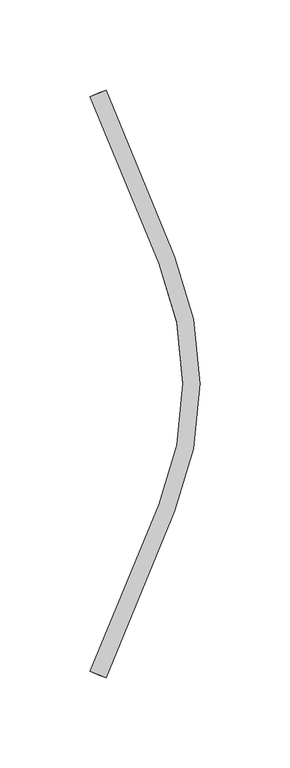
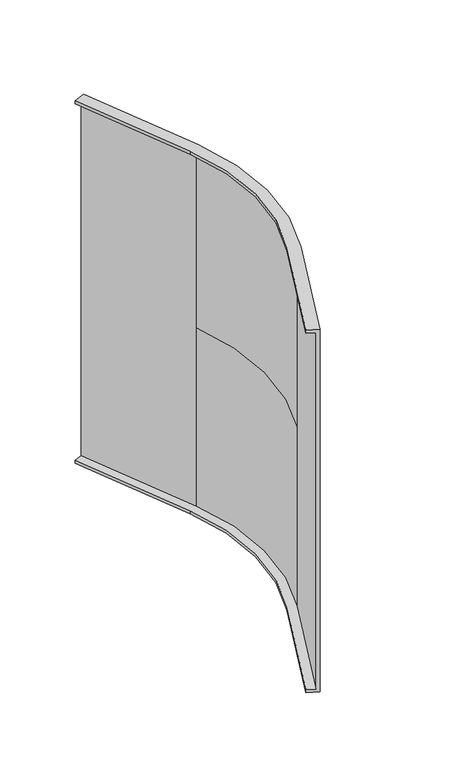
"""IFC4 building model written with IfcOpenShell, lengths in millimetres: cable carrier fitting geometry, CCT_Hyperline_FBTR-ERS45-CVR Крышка на угол 45° внешний (вниз) для оптического лотка : Крышка на угол 45° внешний (вниз) для оптического лотка."""

from ifc_helpers import new_model, si_unit, frame, origin, place, context, project, spatial, polyline, circle_curve, source, transform, mapped, element, save
from ifc_brep_helpers import plane_surface, cylinder_surface, revolved_surface, advanced_brep


def cable_carrier_fitting_f0c8af3d(model_context):
    return source(origin(), model_context, "Body", "AdvancedBrep", [
        advanced_brep(
        [(106.4671567, 150.6353776, 150.0), (100.0, 147.9565936, 150.0), (100.0, 147.9565936, 152.54), (108.8138107, 151.6073935, 152.54), (108.8138107, 151.6073935, -152.54), (100.0, 147.9565936, -152.54), (100.0, 147.9565936, -150.0), (106.4671567, 150.6353776, -150.0), (138.2683432, 55.5686403, -150.0), (138.2683432, -78.370561, -150.0), (100.0, -170.7585143, -150.0), (106.4671567, -173.4372983, -150.0), (144.7355, -81.049345, -150.0), (144.7355, 58.2474243, -150.0), (138.2683432, 55.5686403, -152.54), (147.082154, 59.2194402, -152.54), (147.082154, -82.021361, -152.54), (108.8138107, -174.4093142, -152.54), (100.0, -170.7585143, -152.54), (138.2683432, -78.370561, -152.54), (147.082154, 59.2194402, 152.54), (147.082154, 59.2194402, 0.0), (144.7355, 58.2474243, 0.0), (144.7355, 58.2474243, 150.0), (147.082154, -82.021361, 0.0), (144.7355, -81.049345, 0.0), (108.8138107, -174.4093142, 152.54), (100.0, -170.7585143, 152.54), (100.0, -170.7585143, 150.0), (106.4671567, -173.4372983, 150.0), (147.082154, -82.021361, 152.54), (144.7355, -81.049345, 150.0), (138.2683432, -78.370561, 150.0), (138.2683432, 55.5686403, 150.0), (138.2683432, 55.5686403, 152.54), (138.2683432, -78.370561, 152.54)],
        [
            (0, 1),
            (1, 2),
            (2, 3),
            (3, 4),
            (4, 5),
            (5, 6),
            (6, 7),
            (7, 0),
            (6, 8),
            (8, 9, circle_curve(frame((-23.410575, -11.4009604, -150.0), z_axis=(0.0, 0.0, -1.0), x_axis=(0.9238795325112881, 0.38268343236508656, 0.0)), 175.0)),
            (9, 10),
            (10, 11),
            (11, 12),
            (12, 13, circle_curve(frame((-23.410575, -11.4009604, -150.0), z_axis=(0.0, 0.0, 1.0), x_axis=(0.9238795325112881, 0.38268343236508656, 0.0)), 182.0)),
            (13, 7),
            (5, 14),
            (14, 8),
            (4, 15),
            (15, 16, circle_curve(frame((-23.410575, -11.4009604, -152.54), z_axis=(0.0, 0.0, -1.0), x_axis=(0.9238795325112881, 0.38268343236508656, 0.0)), 184.54)),
            (16, 17),
            (17, 18),
            (18, 19),
            (19, 14, circle_curve(frame((-23.410575, -11.4009604, -152.54), z_axis=(0.0, 0.0, 1.0), x_axis=(0.9238795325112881, 0.38268343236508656, 0.0)), 175.0)),
            (3, 20),
            (20, 21),
            (21, 15),
            (13, 22),
            (22, 23),
            (23, 0),
            (19, 9),
            (21, 24, circle_curve(frame((-23.410575, -11.4009604, 0.0), z_axis=(0.0, 0.0, -1.0), x_axis=(0.9238795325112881, 0.38268343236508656, 0.0)), 184.54)),
            (24, 16),
            (12, 25),
            (25, 22, circle_curve(frame((-23.410575, -11.4009604, 0.0), z_axis=(0.0, 0.0, 1.0), x_axis=(0.9238795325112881, 0.38268343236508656, 0.0)), 182.0)),
            (10, 18),
            (17, 26),
            (26, 27),
            (27, 28),
            (28, 29),
            (29, 11),
            (24, 30),
            (30, 26),
            (29, 31),
            (31, 25),
            (23, 31, circle_curve(frame((-23.410575, -11.4009604, 150.0), z_axis=(0.0, 0.0, -1.0), x_axis=(0.9238795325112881, 0.3826834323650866, 0.0)), 182.0)),
            (28, 32),
            (32, 33, circle_curve(frame((-23.410575, -11.4009604, 150.0), z_axis=(0.0, 0.0, 1.0), x_axis=(0.9238795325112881, 0.3826834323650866, 0.0)), 175.0)),
            (33, 1),
            (33, 34),
            (34, 2),
            (34, 35, circle_curve(frame((-23.410575, -11.4009604, 152.54), z_axis=(0.0, 0.0, -1.0), x_axis=(0.9238795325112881, 0.3826834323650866, 0.0)), 175.0)),
            (35, 27),
            (30, 20, circle_curve(frame((-23.410575, -11.4009604, 152.54), z_axis=(0.0, 0.0, 1.0), x_axis=(0.9238795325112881, 0.3826834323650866, 0.0)), 184.54)),
            (32, 35),
        ],
        [
            plane_surface(frame((104.6193977, 149.8700107, -55.0), z_axis=(-0.38268343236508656, 0.9238795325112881, 0.0), x_axis=(0.0, 0.0, 1.0))),
            plane_surface(frame((100.0, 147.9565936, -150.0), z_axis=(0.0, 0.0, 1.0), x_axis=(0.3826834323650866, -0.9238795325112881, 0.0))),
            plane_surface(frame((100.0, 147.9565936, -152.54), z_axis=(-0.9238795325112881, -0.3826834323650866, 0.0), x_axis=(0.3826834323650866, -0.9238795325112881, 0.0))),
            plane_surface(frame((108.8138107, 151.6073935, -152.54), z_axis=(0.0, 0.0, -1.0000000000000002), x_axis=(0.38268343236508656, -0.9238795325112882, 0.0))),
            plane_surface(frame((108.8138107, 151.6073935, 0.0), z_axis=(0.9238795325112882, 0.38268343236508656, 0.0), x_axis=(0.38268343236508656, -0.9238795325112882, 0.0))),
            plane_surface(frame((106.4671567, 150.6353776, -150.0), z_axis=(-0.9238795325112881, -0.38268343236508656, 0.0), x_axis=(0.38268343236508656, -0.9238795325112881, 0.0))),
            revolved_surface(polyline([(138.26834318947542, 55.568640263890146, -152.54), (138.26834318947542, 55.568640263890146, -150.0)]), (-23.410575, -11.4009604, -55.0), (0.0, 0.0, -1.0)),
            cylinder_surface(frame((-23.410575, -11.4009604, -55.0), z_axis=(0.0, 0.0, -1.0), x_axis=(0.9238795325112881, 0.38268343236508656, 0.0)), 184.54),
            revolved_surface(polyline([(144.73549991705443, 58.24742429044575, -150.0), (144.73549991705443, 58.24742429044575, 0.0)]), (-23.410575, -11.4009604, -55.0), (0.0, 0.0, -1.0)),
            plane_surface(frame((104.6193977, -172.6719314, -55.0), z_axis=(-0.3826834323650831, -0.9238795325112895, 0.0), x_axis=(0.0, 0.0, 1.0))),
            plane_surface(frame((138.2683432, -78.370561, -152.54), z_axis=(-0.9238795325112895, 0.3826834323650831, 0.0), x_axis=(-0.3826834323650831, -0.9238795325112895, 0.0))),
            plane_surface(frame((147.082154, -82.021361, 0.0), z_axis=(0.9238795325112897, -0.3826834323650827, 0.0), x_axis=(-0.3826834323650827, -0.9238795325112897, 0.0))),
            plane_surface(frame((144.7355, -81.049345, -150.0), z_axis=(-0.9238795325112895, 0.3826834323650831, 0.0), x_axis=(-0.3826834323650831, -0.9238795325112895, 0.0))),
            plane_surface(frame((106.4671567, 150.6353776, 150.0), z_axis=(0.0, 0.0, -1.0), x_axis=(0.38268343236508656, -0.9238795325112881, 0.0))),
            plane_surface(frame((100.0, 147.9565936, 150.0), z_axis=(-0.9238795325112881, -0.38268343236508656, 0.0), x_axis=(0.38268343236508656, -0.9238795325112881, 0.0))),
            plane_surface(frame((100.0, 147.9565936, 152.54), z_axis=(0.0, 0.0, 1.0), x_axis=(0.38268343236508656, -0.9238795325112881, 0.0))),
            revolved_surface(polyline([(138.26834318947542, 55.56864026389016, 150.0), (138.26834318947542, 55.56864026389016, 152.54)]), (-23.410575, -11.4009604, 55.0), (0.0, 0.0, -1.0)),
            cylinder_surface(frame((-23.410575, -11.4009604, 55.0), z_axis=(0.0, 0.0, -1.0), x_axis=(0.9238795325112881, 0.3826834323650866, 0.0)), 184.54),
            revolved_surface(polyline([(144.73549991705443, 58.247424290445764, 0.0), (144.73549991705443, 58.247424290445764, 150.0)]), (-23.410575, -11.4009604, 55.0), (0.0, 0.0, -1.0)),
            plane_surface(frame((138.2683432, -78.370561, 150.0), z_axis=(-0.9238795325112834, 0.3826834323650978, 0.0), x_axis=(-0.3826834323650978, -0.9238795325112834, 0.0))),
        ],
        [
            (0, [[1, 2, 3, 4, 5, 6, 7, 8]]),
            (1, [[-7, 9, 10, 11, 12, 13, 14, 15]]),
            (2, [[-6, 16, 17, -9]]),
            (3, [[-5, 18, 19, 20, 21, 22, 23, -16]]),
            (4, [[-4, 24, 25, 26, -18]]),
            (5, [[-8, -15, 27, 28, 29]]),
            (6, [[-10, -17, -23, 30]]),
            (7, [[-19, -26, 31, 32]]),
            (8, [[-14, 33, 34, -27]]),
            (9, [[-12, 35, -21, 36, 37, 38, 39, 40]]),
            (10, [[-11, -30, -22, -35]]),
            (11, [[-36, -20, -32, 41, 42]]),
            (12, [[-13, -40, 43, 44, -33]]),
            (13, [[-1, -29, 45, -43, -39, 46, 47, 48]]),
            (14, [[-2, -48, 49, 50]]),
            (15, [[-3, -50, 51, 52, -37, -42, 53, -24]]),
            (16, [[-47, 54, -51, -49]]),
            (17, [[-53, -41, -31, -25]]),
            (18, [[-45, -28, -34, -44]]),
            (19, [[-46, -38, -52, -54]]),
        ],
    ),
    ])


if __name__ == "__main__":
    model = new_model("IFC4")
    model_context = context("Model", 3, world=origin())
    ifc_project = project(units=[si_unit("LENGTHUNIT", "METRE", prefix="MILLI")], contexts=[model_context])
    site = spatial("IfcSite", under=ifc_project)
    building = spatial("IfcBuilding", under=site)
    placement = place(None, origin())
    cable_carrier_fitting_shape = cable_carrier_fitting_f0c8af3d(model_context)
    element("IfcCableCarrierFitting", 1, ObjectType="CCT_Hyperline_FBTR-ERS45-CVR Крышка на угол 45° внешний (вниз) для оптического лотка : Крышка на угол 45° внешний (вниз) для оптического лотка", at=placement, inside=building, context=model_context, shape_type="MappedRepresentation", body=[
        mapped(cable_carrier_fitting_shape, transform((0.0, 0.0, 0.0), x_axis=(1.0, 0.0, 0.0), y_axis=(0.0, 1.0, 0.0), z_axis=(0.0, 0.0, 1.0))),
    ])
    save(model, "model.ifc")
